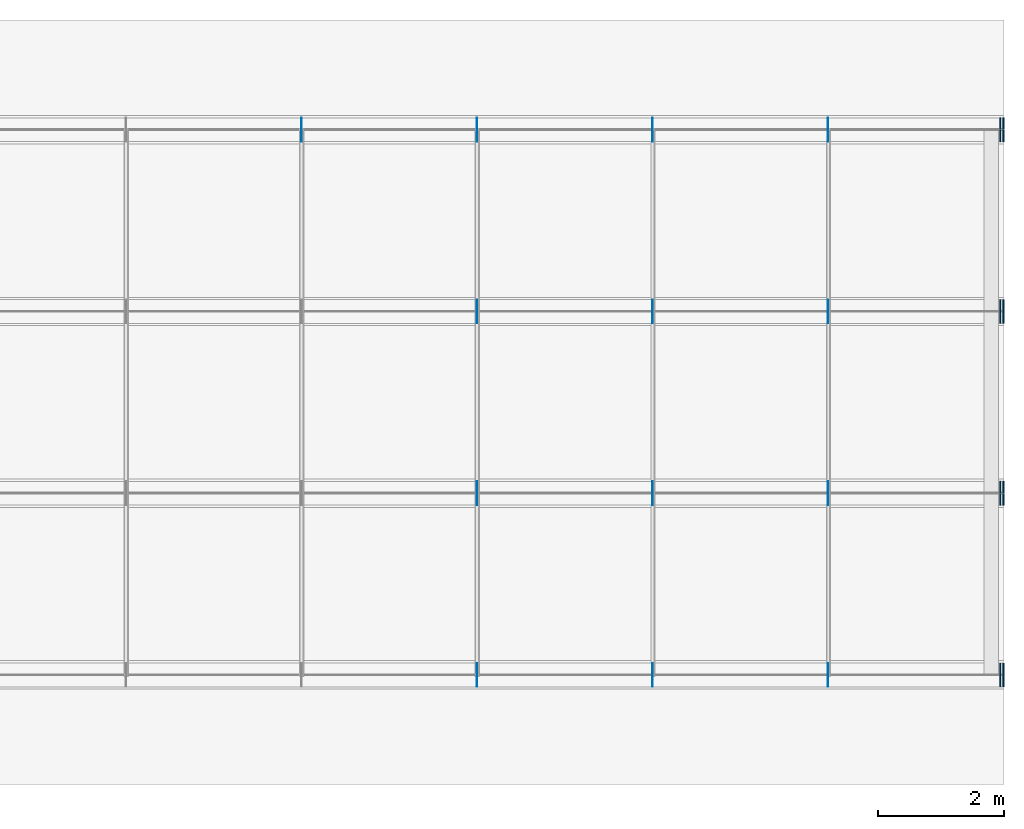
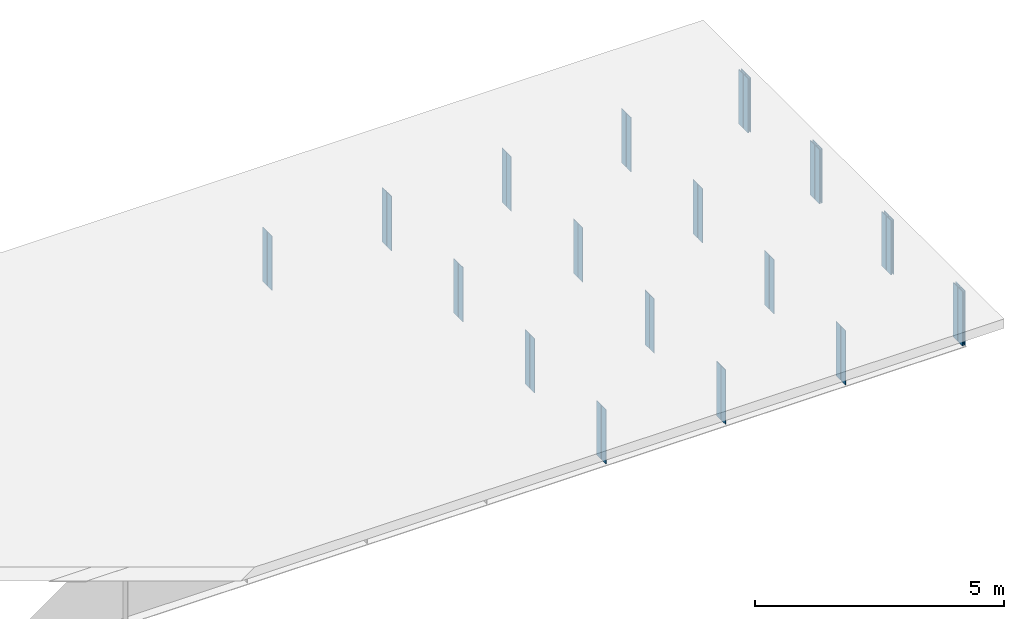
# One storey, part 10 of 10: 42 plates.
"""IFC4 building model written with IfcOpenShell, lengths in metres."""

from ifc_helpers import new_model, si_unit, frame, origin, origin_with_axes, origin_2d_with_axis, place, context, subcontext, project, spatial, rectangle, extrude, element, save


model = new_model("IFC4")

# Units and contexts
model_context = context("Model", 3, precision=1e-05, world=origin())
body_context = subcontext(model_context, "Body", "Model", "MODEL_VIEW")
ifc_project = project(units=[si_unit("LENGTHUNIT", "METRE"), si_unit("AREAUNIT", "SQUARE_METRE"), si_unit("VOLUMEUNIT", "CUBIC_METRE"), si_unit("PLANEANGLEUNIT", "RADIAN")], contexts=[model_context])

# Site, building, storey
site_placement = place(None, origin_with_axes())
site = spatial("IfcSite", under=ifc_project, at=site_placement, Name="Default Site")
building_placement = place(site_placement, origin_with_axes())
building = spatial("IfcBuilding", under=site, at=building_placement, Name="Bridge Structure")
storey_placement = place(building_placement, origin_with_axes())
storey = spatial("IfcBuildingStorey", under=building, at=storey_placement, Name="Superstructure")

# Plates
for number, where, z_axis, x_axis, name in (
    (1, (16.662, -4.21575, -0.6685), (0.0, 0.0, 1.0), (1.0, 0.0, 0.0), "Intermediate Stiffener 1"),
    (2, (16.662, -4.40925, -0.6685), (0.0, 0.0, 1.0), (1.0, 0.0, 0.0), "Intermediate Stiffener 1"),
    (3, (19.439, -4.21575, -0.6685), (0.0, 0.0, 1.0), (1.0, 0.0, 0.0), "Intermediate Stiffener 1"),
    (4, (19.439, -4.40925, -0.6685), (0.0, 0.0, 1.0), (1.0, 0.0, 0.0), "Intermediate Stiffener 1"),
    (5, (22.216, -4.21575, -0.6685), (0.0, 0.0, 1.0), (1.0, 0.0, 0.0), "Intermediate Stiffener 1"),
    (6, (22.216, -4.40925, -0.6685), (0.0, 0.0, 1.0), (1.0, 0.0, 0.0), "Intermediate Stiffener 1"),
):
    element("IfcPlate", number, at=place(storey_placement, frame(where, z_axis=z_axis, x_axis=x_axis)), inside=storey, Name=name, context=body_context, shape_type="SweptSolid", body=[
        extrude(rectangle(XDim=0.012, YDim=0.1815, at=origin_2d_with_axis()), origin_with_axes(), (0.0, 0.0, 1.0), 1.337),
    ])
for number, where, z_axis, x_axis, name in (
    (7, (24.990000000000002, -4.21575, -0.6685), (0.0, 0.0, 1.0), (1.0, 0.0, 0.0), "End Stiffener 1"),
    (8, (24.990000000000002, -4.40925, -0.6685), (0.0, 0.0, 1.0), (1.0, 0.0, 0.0), "End Stiffener 1"),
    (9, (24.94, -4.21575, -0.6685), (0.0, 0.0, 1.0), (1.0, 0.0, 0.0), "End Stiffener 1"),
    (10, (24.94, -4.40925, -0.6685), (0.0, 0.0, 1.0), (1.0, 0.0, 0.0), "End Stiffener 1"),
):
    element("IfcPlate", number, at=place(storey_placement, frame(where, z_axis=z_axis, x_axis=x_axis)), inside=storey, Name=name, context=body_context, shape_type="SweptSolid", body=[
        extrude(rectangle(XDim=0.02, YDim=0.1815, at=origin_2d_with_axis()), origin_with_axes(), (0.0, 0.0, 1.0), 1.337),
    ])
for number, where, z_axis, x_axis, name in (
    (11, (16.662, -1.34075, -0.6685), (0.0, 0.0, 1.0), (1.0, 0.0, 0.0), "Intermediate Stiffener 2"),
    (12, (16.662, -1.5342500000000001, -0.6685), (0.0, 0.0, 1.0), (1.0, 0.0, 0.0), "Intermediate Stiffener 2"),
    (13, (19.439, -1.34075, -0.6685), (0.0, 0.0, 1.0), (1.0, 0.0, 0.0), "Intermediate Stiffener 2"),
    (14, (19.439, -1.5342500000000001, -0.6685), (0.0, 0.0, 1.0), (1.0, 0.0, 0.0), "Intermediate Stiffener 2"),
    (15, (22.216, -1.34075, -0.6685), (0.0, 0.0, 1.0), (1.0, 0.0, 0.0), "Intermediate Stiffener 2"),
    (16, (22.216, -1.5342500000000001, -0.6685), (0.0, 0.0, 1.0), (1.0, 0.0, 0.0), "Intermediate Stiffener 2"),
):
    element("IfcPlate", number, at=place(storey_placement, frame(where, z_axis=z_axis, x_axis=x_axis)), inside=storey, Name=name, context=body_context, shape_type="SweptSolid", body=[
        extrude(rectangle(XDim=0.012, YDim=0.1815, at=origin_2d_with_axis()), origin_with_axes(), (0.0, 0.0, 1.0), 1.337),
    ])
for number, where, z_axis, x_axis, name in (
    (17, (24.990000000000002, -1.34075, -0.6685), (0.0, 0.0, 1.0), (1.0, 0.0, 0.0), "End Stiffener 2"),
    (18, (24.990000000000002, -1.5342500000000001, -0.6685), (0.0, 0.0, 1.0), (1.0, 0.0, 0.0), "End Stiffener 2"),
    (19, (24.94, -1.34075, -0.6685), (0.0, 0.0, 1.0), (1.0, 0.0, 0.0), "End Stiffener 2"),
    (20, (24.94, -1.5342500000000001, -0.6685), (0.0, 0.0, 1.0), (1.0, 0.0, 0.0), "End Stiffener 2"),
):
    element("IfcPlate", number, at=place(storey_placement, frame(where, z_axis=z_axis, x_axis=x_axis)), inside=storey, Name=name, context=body_context, shape_type="SweptSolid", body=[
        extrude(rectangle(XDim=0.02, YDim=0.1815, at=origin_2d_with_axis()), origin_with_axes(), (0.0, 0.0, 1.0), 1.337),
    ])
for number, where, z_axis, x_axis, name in (
    (21, (16.662, 1.5342500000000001, -0.6685), (0.0, 0.0, 1.0), (1.0, 0.0, 0.0), "Intermediate Stiffener 3"),
    (22, (16.662, 1.34075, -0.6685), (0.0, 0.0, 1.0), (1.0, 0.0, 0.0), "Intermediate Stiffener 3"),
    (23, (19.439, 1.5342500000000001, -0.6685), (0.0, 0.0, 1.0), (1.0, 0.0, 0.0), "Intermediate Stiffener 3"),
    (24, (19.439, 1.34075, -0.6685), (0.0, 0.0, 1.0), (1.0, 0.0, 0.0), "Intermediate Stiffener 3"),
    (25, (22.216, 1.5342500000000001, -0.6685), (0.0, 0.0, 1.0), (1.0, 0.0, 0.0), "Intermediate Stiffener 3"),
    (26, (22.216, 1.34075, -0.6685), (0.0, 0.0, 1.0), (1.0, 0.0, 0.0), "Intermediate Stiffener 3"),
):
    element("IfcPlate", number, at=place(storey_placement, frame(where, z_axis=z_axis, x_axis=x_axis)), inside=storey, Name=name, context=body_context, shape_type="SweptSolid", body=[
        extrude(rectangle(XDim=0.012, YDim=0.1815, at=origin_2d_with_axis()), origin_with_axes(), (0.0, 0.0, 1.0), 1.337),
    ])
for number, where, z_axis, x_axis, name in (
    (27, (24.990000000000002, 1.5342500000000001, -0.6685), (0.0, 0.0, 1.0), (1.0, 0.0, 0.0), "End Stiffener 3"),
    (28, (24.990000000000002, 1.34075, -0.6685), (0.0, 0.0, 1.0), (1.0, 0.0, 0.0), "End Stiffener 3"),
    (29, (24.94, 1.5342500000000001, -0.6685), (0.0, 0.0, 1.0), (1.0, 0.0, 0.0), "End Stiffener 3"),
    (30, (24.94, 1.34075, -0.6685), (0.0, 0.0, 1.0), (1.0, 0.0, 0.0), "End Stiffener 3"),
):
    element("IfcPlate", number, at=place(storey_placement, frame(where, z_axis=z_axis, x_axis=x_axis)), inside=storey, Name=name, context=body_context, shape_type="SweptSolid", body=[
        extrude(rectangle(XDim=0.02, YDim=0.1815, at=origin_2d_with_axis()), origin_with_axes(), (0.0, 0.0, 1.0), 1.337),
    ])
for number, where, z_axis, x_axis, name in (
    (31, (13.885, 4.40925, -0.6685), (0.0, 0.0, 1.0), (1.0, 0.0, 0.0), "Intermediate Stiffener 4"),
    (32, (13.885, 4.21575, -0.6685), (0.0, 0.0, 1.0), (1.0, 0.0, 0.0), "Intermediate Stiffener 4"),
    (33, (16.662, 4.40925, -0.6685), (0.0, 0.0, 1.0), (1.0, 0.0, 0.0), "Intermediate Stiffener 4"),
    (34, (16.662, 4.21575, -0.6685), (0.0, 0.0, 1.0), (1.0, 0.0, 0.0), "Intermediate Stiffener 4"),
    (35, (19.439, 4.40925, -0.6685), (0.0, 0.0, 1.0), (1.0, 0.0, 0.0), "Intermediate Stiffener 4"),
    (36, (19.439, 4.21575, -0.6685), (0.0, 0.0, 1.0), (1.0, 0.0, 0.0), "Intermediate Stiffener 4"),
    (37, (22.216, 4.40925, -0.6685), (0.0, 0.0, 1.0), (1.0, 0.0, 0.0), "Intermediate Stiffener 4"),
    (38, (22.216, 4.21575, -0.6685), (0.0, 0.0, 1.0), (1.0, 0.0, 0.0), "Intermediate Stiffener 4"),
):
    element("IfcPlate", number, at=place(storey_placement, frame(where, z_axis=z_axis, x_axis=x_axis)), inside=storey, Name=name, context=body_context, shape_type="SweptSolid", body=[
        extrude(rectangle(XDim=0.012, YDim=0.1815, at=origin_2d_with_axis()), origin_with_axes(), (0.0, 0.0, 1.0), 1.337),
    ])
for number, where, z_axis, x_axis, name in (
    (39, (24.990000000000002, 4.40925, -0.6685), (0.0, 0.0, 1.0), (1.0, 0.0, 0.0), "End Stiffener 4"),
    (40, (24.990000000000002, 4.21575, -0.6685), (0.0, 0.0, 1.0), (1.0, 0.0, 0.0), "End Stiffener 4"),
    (41, (24.94, 4.40925, -0.6685), (0.0, 0.0, 1.0), (1.0, 0.0, 0.0), "End Stiffener 4"),
    (42, (24.94, 4.21575, -0.6685), (0.0, 0.0, 1.0), (1.0, 0.0, 0.0), "End Stiffener 4"),
):
    element("IfcPlate", number, at=place(storey_placement, frame(where, z_axis=z_axis, x_axis=x_axis)), inside=storey, Name=name, context=body_context, shape_type="SweptSolid", body=[
        extrude(rectangle(XDim=0.02, YDim=0.1815, at=origin_2d_with_axis()), origin_with_axes(), (0.0, 0.0, 1.0), 1.337),
    ])

save(model, "model.ifc")
